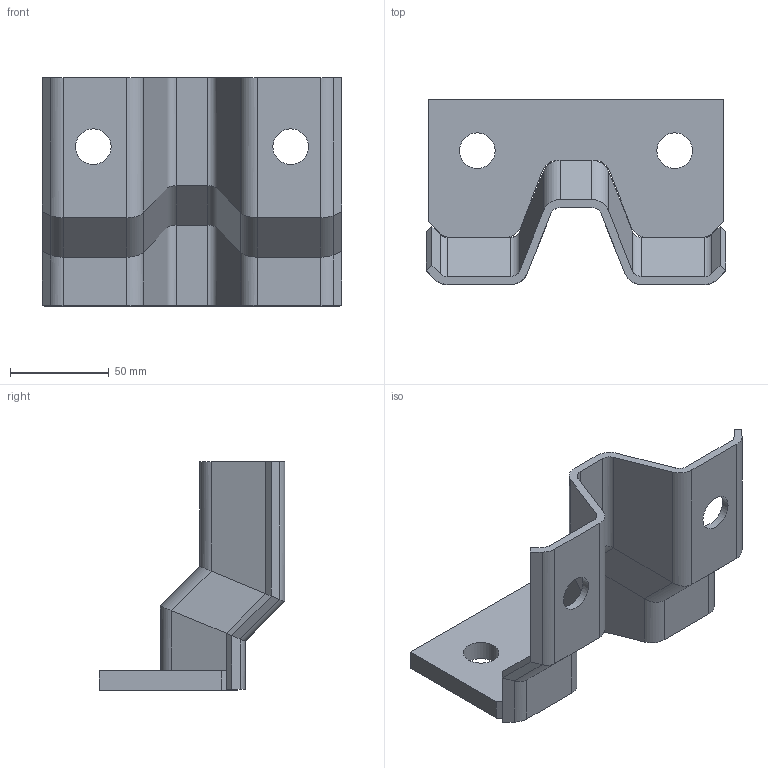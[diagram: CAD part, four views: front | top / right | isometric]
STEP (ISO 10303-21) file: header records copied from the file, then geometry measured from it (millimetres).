
FILE_DESCRIPTION(/* description */ (''),/* implementation_level */ '2;1');
FILE_NAME(/* name */ 'B150W100.stp',/* time_stamp */ '2023-07-03T10:32:53+02:00',/* author */ ('woriedl'),/* organization */ (''),/* preprocessor_version */ 'ST-DEVELOPER v19.2',/* originating_system */ 'AutoCAD Mechanical',/* authorisation */ '');
FILE_SCHEMA (('AUTOMOTIVE_DESIGN { 1 0 10303 214 3 1 1 }'));
Length unit declared in the file: centimetre
Products named in the file (1): Product
Bounding box: 151.72 x 94 x 116 mm (x, y, z)
Volume: 179588 mm3; surface area: 72875.6 mm2
Topology: 1 solids, 1 shells, 108 faces, 268 edges, 158 vertices
Faces by surface type: plane 62, cylinder 46
Full cylindrical faces by diameter (mm): 18 x4
Entity records: 3171 total; most frequent: DIRECTION 554, ORIENTED_EDGE 536, CARTESIAN_POINT 535, EDGE_CURVE 268, LINE 200, VECTOR 200, AXIS2_PLACEMENT_3D 177, VERTEX_POINT 158
